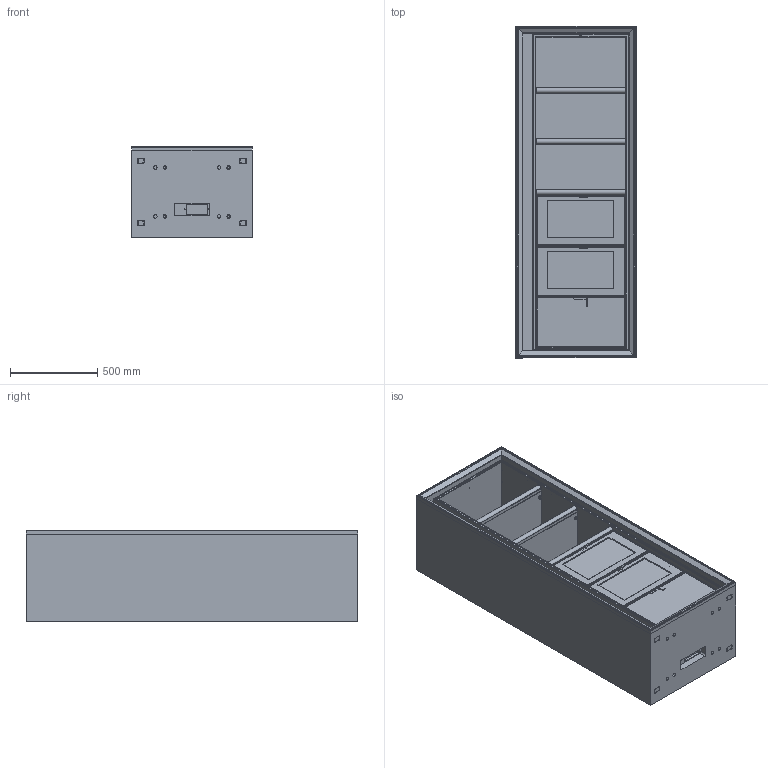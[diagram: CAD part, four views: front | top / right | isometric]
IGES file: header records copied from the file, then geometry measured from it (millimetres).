
Global section: file name: 80088; native system: Autodesk Inventor 2014; preprocessor: unknown; author: Robertom; date: 20140526.112902; units: millimetre
Bounding box: 690 x 1900 x 520 mm (x, y, z)
Volume: 232479774.5 mm3; surface area: 26152580.9 mm2
Topology: 94 solids, 94 shells, 2537 faces, 7141 edges, 4876 vertices
Faces by surface type: bspline 2537
